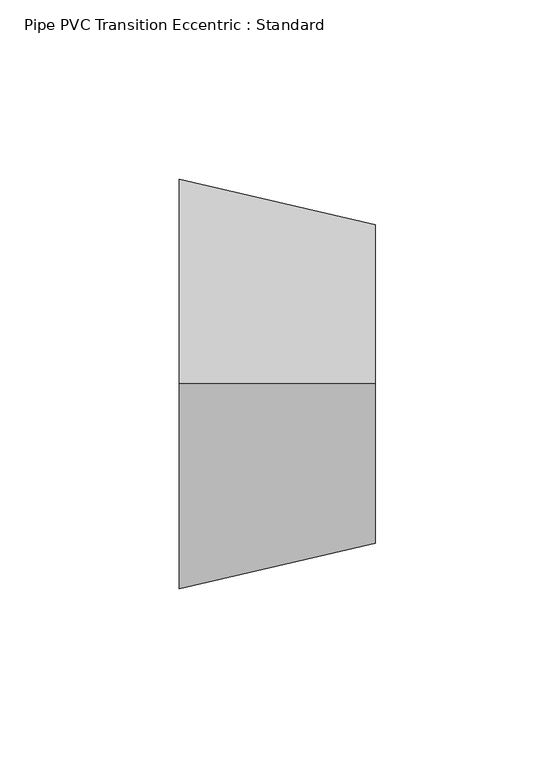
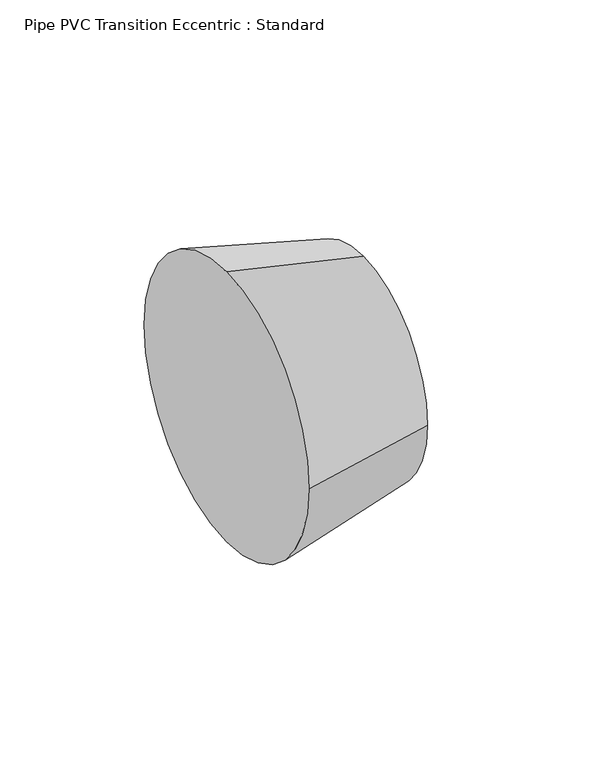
"""IFC4 building model written with IfcOpenShell, lengths in millimetres: pipe fitting geometry, Pipe PVC Transition Eccentric : Standard."""

from ifc_helpers import new_model, si_unit, frame, origin, place, context, project, spatial, polyline, circle_curve, source, transform, mapped, element, save
from ifc_brep_helpers import plane_surface, revolved_surface, advanced_brep


def pipe_pvc_transition_eccentric_standard_5485b987(model_context):
    return source(origin(), model_context, "Body", "AdvancedBrep", [
        advanced_brep(
        [(54.76875, 0.0, 44.45), (54.76875, -44.45, 0.0), (54.76875, 0.0, -44.45), (54.76875, 44.45, 0.0), (0.0, 0.0, 57.15), (0.0, 57.15, 0.0), (0.0, 0.0, -57.15), (0.0, -57.15, 0.0)],
        [
            (0, 1, circle_curve(frame((54.76875, 0.0, 0.0), z_axis=(1.0, 0.0, 0.0), x_axis=(0.0, 0.0, 1.0)), 44.45)),
            (1, 2, circle_curve(frame((54.76875, 0.0, 0.0), z_axis=(1.0, 0.0, 0.0), x_axis=(0.0, -1.0, 0.0)), 44.45)),
            (2, 3, circle_curve(frame((54.76875, 0.0, 0.0), z_axis=(1.0, 0.0, 0.0), x_axis=(0.0, 0.0, -1.0)), 44.45)),
            (3, 0, circle_curve(frame((54.76875, 0.0, 0.0), z_axis=(1.0, 0.0, 0.0), x_axis=(0.0, 1.0, 0.0)), 44.45)),
            (4, 5, circle_curve(frame((0.0, 0.0, 0.0), z_axis=(-1.0, 0.0, 0.0), x_axis=(0.0, 1.0, 0.0)), 57.15)),
            (5, 6, circle_curve(frame((0.0, 0.0, 0.0), z_axis=(-1.0, 0.0, 0.0), x_axis=(0.0, 0.0, -1.0)), 57.15)),
            (6, 7, circle_curve(frame((0.0, 0.0, 0.0), z_axis=(-1.0, 0.0, 0.0), x_axis=(0.0, -1.0, 0.0)), 57.15)),
            (7, 4, circle_curve(frame((0.0, 0.0, 0.0), z_axis=(-1.0, 0.0, 0.0), x_axis=(0.0, 0.0, 1.0)), 57.15)),
            (7, 1),
            (0, 4),
            (6, 2),
            (5, 3),
        ],
        [
            plane_surface(frame((54.76875, 0.0, 0.0), z_axis=(1.0, 0.0, 0.0), x_axis=(0.0, -1.0, 0.0))),
            plane_surface(frame((0.0, 0.0, 0.0), z_axis=(-1.0, 0.0, 0.0), x_axis=(0.0, -1.0, 0.0))),
            revolved_surface(polyline([(54.76874999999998, 0.0, 44.45), (0.0, 0.0, 57.15)]), (246.459375, 0.0, 0.0), (-1.0, 0.0, 0.0)),
            revolved_surface(polyline([(54.76874999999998, -44.45, 0.0), (0.0, -57.15, 0.0)]), (246.459375, 0.0, 0.0), (-1.0, 0.0, 0.0)),
            revolved_surface(polyline([(54.76874999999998, 0.0, -44.45), (0.0, 0.0, -57.15)]), (246.459375, 0.0, 0.0), (-1.0, 0.0, 0.0)),
            revolved_surface(polyline([(54.76874999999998, 44.45, 0.0), (0.0, 57.15, 0.0)]), (246.459375, 0.0, 0.0), (-1.0, 0.0, 0.0)),
        ],
        [
            (0, [[1, 2, 3, 4]]),
            (1, [[5, 6, 7, 8]]),
            (2, [[-8, 9, -1, 10]]),
            (3, [[-7, 11, -2, -9]]),
            (4, [[-6, 12, -3, -11]]),
            (5, [[-5, -10, -4, -12]]),
        ],
    ),
        advanced_brep(
        [(54.76875, 0.0, 44.45), (54.76875, -44.45, 0.0), (54.76875, 0.0, -44.45), (54.76875, 44.45, 0.0), (0.0, 0.0, 57.15), (0.0, 57.15, 0.0), (0.0, 0.0, -57.15), (0.0, -57.15, 0.0)],
        [
            (0, 1, circle_curve(frame((54.76875, 0.0, 0.0), z_axis=(1.0, 0.0, 0.0), x_axis=(0.0, 0.0, 1.0)), 44.45)),
            (1, 2, circle_curve(frame((54.76875, 0.0, 0.0), z_axis=(1.0, 0.0, 0.0), x_axis=(0.0, -1.0, 0.0)), 44.45)),
            (2, 3, circle_curve(frame((54.76875, 0.0, 0.0), z_axis=(1.0, 0.0, 0.0), x_axis=(0.0, 0.0, -1.0)), 44.45)),
            (3, 0, circle_curve(frame((54.76875, 0.0, 0.0), z_axis=(1.0, 0.0, 0.0), x_axis=(0.0, 1.0, 0.0)), 44.45)),
            (4, 5, circle_curve(frame((0.0, 0.0, 0.0), z_axis=(-1.0, 0.0, 0.0), x_axis=(0.0, 1.0, 0.0)), 57.15)),
            (5, 6, circle_curve(frame((0.0, 0.0, 0.0), z_axis=(-1.0, 0.0, 0.0), x_axis=(0.0, 0.0, -1.0)), 57.15)),
            (6, 7, circle_curve(frame((0.0, 0.0, 0.0), z_axis=(-1.0, 0.0, 0.0), x_axis=(0.0, -1.0, 0.0)), 57.15)),
            (7, 4, circle_curve(frame((0.0, 0.0, 0.0), z_axis=(-1.0, 0.0, 0.0), x_axis=(0.0, 0.0, 1.0)), 57.15)),
            (7, 1),
            (0, 4),
            (6, 2),
            (5, 3),
        ],
        [
            plane_surface(frame((54.76875, 0.0, 0.0), z_axis=(1.0, 0.0, 0.0), x_axis=(0.0, -1.0, 0.0))),
            plane_surface(frame((0.0, 0.0, 0.0), z_axis=(-1.0, 0.0, 0.0), x_axis=(0.0, -1.0, 0.0))),
            revolved_surface(polyline([(54.76874999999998, 0.0, 44.45), (0.0, 0.0, 57.15)]), (246.459375, 0.0, 0.0), (-1.0, 0.0, 0.0)),
            revolved_surface(polyline([(54.76874999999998, -44.45, 0.0), (0.0, -57.15, 0.0)]), (246.459375, 0.0, 0.0), (-1.0, 0.0, 0.0)),
            revolved_surface(polyline([(54.76874999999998, 0.0, -44.45), (0.0, 0.0, -57.15)]), (246.459375, 0.0, 0.0), (-1.0, 0.0, 0.0)),
            revolved_surface(polyline([(54.76874999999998, 44.45, 0.0), (0.0, 57.15, 0.0)]), (246.459375, 0.0, 0.0), (-1.0, 0.0, 0.0)),
        ],
        [
            (0, [[1, 2, 3, 4]]),
            (1, [[5, 6, 7, 8]]),
            (2, [[-8, 9, -1, 10]]),
            (3, [[-7, 11, -2, -9]]),
            (4, [[-6, 12, -3, -11]]),
            (5, [[-5, -10, -4, -12]]),
        ],
    ),
    ])


if __name__ == "__main__":
    model = new_model("IFC4")
    model_context = context("Model", 3, world=origin())
    ifc_project = project(units=[si_unit("LENGTHUNIT", "METRE", prefix="MILLI")], contexts=[model_context])
    site = spatial("IfcSite", under=ifc_project)
    building = spatial("IfcBuilding", under=site)
    placement = place(None, origin())
    pipe_pvc_transition_eccentric_standard_shape = pipe_pvc_transition_eccentric_standard_5485b987(model_context)
    element("IfcPipeFitting", 1, ObjectType="Pipe PVC Transition Eccentric : Standard", at=placement, inside=building, context=model_context, shape_type="MappedRepresentation", body=[
        mapped(pipe_pvc_transition_eccentric_standard_shape, transform((0.0, 0.0, 0.0), x_axis=(1.0, 0.0, 0.0), y_axis=(0.0, 1.0, 0.0), z_axis=(0.0, 0.0, 1.0))),
    ])
    save(model, "model.ifc")
